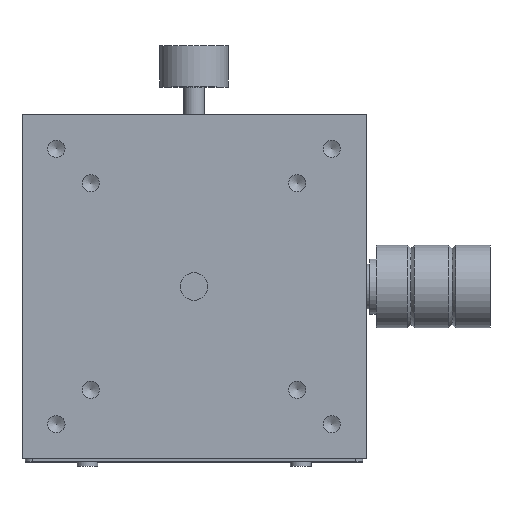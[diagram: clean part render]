
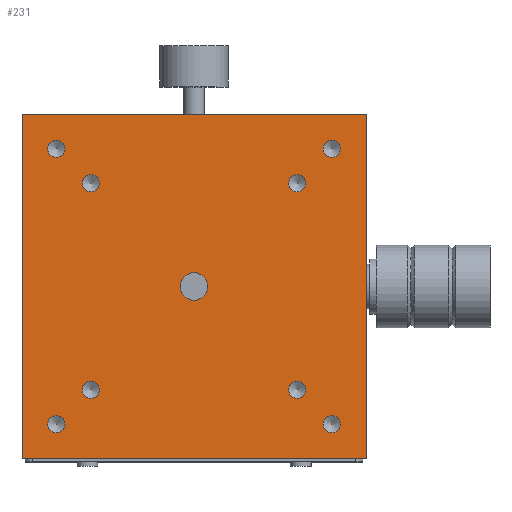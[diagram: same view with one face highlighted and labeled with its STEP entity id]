
A CAD part, top view. The second image highlights one B-rep face of the part: STEP entity #231.
In plain terms, the highlighted planar face has unit normal (0, 0, 1).
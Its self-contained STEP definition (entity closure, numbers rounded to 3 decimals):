
#231 = ADVANCED_FACE( '', ( #447, #448, #449, #450, #451, #452, #453, #454, #455, #456 ), #457, .T. );
#447 = FACE_BOUND( '', #771, .T. );
#448 = FACE_BOUND( '', #772, .T. );
#449 = FACE_BOUND( '', #773, .T. );
#450 = FACE_BOUND( '', #774, .T. );
#451 = FACE_BOUND( '', #775, .T. );
#452 = FACE_BOUND( '', #776, .T. );
#453 = FACE_BOUND( '', #777, .T. );
#454 = FACE_BOUND( '', #778, .T. );
#455 = FACE_OUTER_BOUND( '', #779, .T. );
#456 = FACE_BOUND( '', #780, .T. );
#457 = PLANE( '', #781 );
#771 = EDGE_LOOP( '', ( #1391 ) );
#772 = EDGE_LOOP( '', ( #1392 ) );
#773 = EDGE_LOOP( '', ( #1393 ) );
#774 = EDGE_LOOP( '', ( #1394 ) );
#775 = EDGE_LOOP( '', ( #1395 ) );
#776 = EDGE_LOOP( '', ( #1396 ) );
#777 = EDGE_LOOP( '', ( #1397 ) );
#778 = EDGE_LOOP( '', ( #1398 ) );
#779 = EDGE_LOOP( '', ( #1399, #1400, #1401, #1402 ) );
#780 = EDGE_LOOP( '', ( #1403 ) );
#781 = AXIS2_PLACEMENT_3D( '', #1404, #1405, #1406 );
#1391 = ORIENTED_EDGE( '', *, *, #1858, .T. );
#1392 = ORIENTED_EDGE( '', *, *, #1896, .T. );
#1393 = ORIENTED_EDGE( '', *, *, #1897, .T. );
#1394 = ORIENTED_EDGE( '', *, *, #1898, .T. );
#1395 = ORIENTED_EDGE( '', *, *, #1899, .T. );
#1396 = ORIENTED_EDGE( '', *, *, #1900, .T. );
#1397 = ORIENTED_EDGE( '', *, *, #1901, .T. );
#1398 = ORIENTED_EDGE( '', *, *, #1902, .T. );
#1399 = ORIENTED_EDGE( '', *, *, #1867, .F. );
#1400 = ORIENTED_EDGE( '', *, *, #1887, .F. );
#1401 = ORIENTED_EDGE( '', *, *, #1894, .F. );
#1402 = ORIENTED_EDGE( '', *, *, #1903, .F. );
#1403 = ORIENTED_EDGE( '', *, *, #1904, .T. );
#1404 = CARTESIAN_POINT( '', ( 0., 0., 18. ) );
#1405 = DIRECTION( '', ( 0., 0., 1. ) );
#1406 = DIRECTION( '', ( 1., 0., 0. ) );
#1858 = EDGE_CURVE( '', #2168, #2168, #2169, .T. );
#1867 = EDGE_CURVE( '', #2185, #2187, #2188, .T. );
#1887 = EDGE_CURVE( '', #2222, #2185, #2224, .T. );
#1894 = EDGE_CURVE( '', #2234, #2222, #2236, .T. );
#1896 = EDGE_CURVE( '', #2239, #2239, #2240, .T. );
#1897 = EDGE_CURVE( '', #2241, #2241, #2242, .T. );
#1898 = EDGE_CURVE( '', #2243, #2243, #2244, .T. );
#1899 = EDGE_CURVE( '', #2245, #2245, #2246, .T. );
#1900 = EDGE_CURVE( '', #2247, #2247, #2248, .T. );
#1901 = EDGE_CURVE( '', #2249, #2249, #2250, .T. );
#1902 = EDGE_CURVE( '', #2251, #2251, #2252, .T. );
#1903 = EDGE_CURVE( '', #2187, #2234, #2253, .T. );
#1904 = EDGE_CURVE( '', #2254, #2254, #2255, .F. );
#2168 = VERTEX_POINT( '', #2880 );
#2169 = CIRCLE( '', #2881, 1.25 );
#2185 = VERTEX_POINT( '', #2900 );
#2187 = VERTEX_POINT( '', #2903 );
#2188 = LINE( '', #2904, #2905 );
#2222 = VERTEX_POINT( '', #2959 );
#2224 = LINE( '', #2962, #2963 );
#2234 = VERTEX_POINT( '', #2979 );
#2236 = LINE( '', #2982, #2983 );
#2239 = VERTEX_POINT( '', #2986 );
#2240 = CIRCLE( '', #2987, 1.25 );
#2241 = VERTEX_POINT( '', #2988 );
#2242 = CIRCLE( '', #2989, 1.25 );
#2243 = VERTEX_POINT( '', #2990 );
#2244 = CIRCLE( '', #2991, 1.25 );
#2245 = VERTEX_POINT( '', #2992 );
#2246 = CIRCLE( '', #2993, 1.25 );
#2247 = VERTEX_POINT( '', #2994 );
#2248 = CIRCLE( '', #2995, 1.25 );
#2249 = VERTEX_POINT( '', #2996 );
#2250 = CIRCLE( '', #2997, 1.25 );
#2251 = VERTEX_POINT( '', #2998 );
#2252 = CIRCLE( '', #2999, 1.25 );
#2253 = LINE( '', #3000, #3001 );
#2254 = VERTEX_POINT( '', #3002 );
#2255 = CIRCLE( '', #3003, 2. );
#2880 = CARTESIAN_POINT( '', ( -15., 13.75, 18. ) );
#2881 = AXIS2_PLACEMENT_3D( '', #3311, #3312, #3313 );
#2900 = CARTESIAN_POINT( '', ( 25., -25., 18. ) );
#2903 = CARTESIAN_POINT( '', ( -25., -25., 18. ) );
#2904 = CARTESIAN_POINT( '', ( 0., -25., 18. ) );
#2905 = VECTOR( '', #3330, 1000. );
#2959 = CARTESIAN_POINT( '', ( 25., 25., 18. ) );
#2962 = CARTESIAN_POINT( '', ( 25., 0., 18. ) );
#2963 = VECTOR( '', #3358, 1000. );
#2979 = CARTESIAN_POINT( '', ( -25., 25., 18. ) );
#2982 = CARTESIAN_POINT( '', ( 0., 25., 18. ) );
#2983 = VECTOR( '', #3366, 1000. );
#2986 = CARTESIAN_POINT( '', ( 15., 13.75, 18. ) );
#2987 = AXIS2_PLACEMENT_3D( '', #3370, #3371, #3372 );
#2988 = CARTESIAN_POINT( '', ( 15., -16.25, 18. ) );
#2989 = AXIS2_PLACEMENT_3D( '', #3373, #3374, #3375 );
#2990 = CARTESIAN_POINT( '', ( -15., -16.25, 18. ) );
#2991 = AXIS2_PLACEMENT_3D( '', #3376, #3377, #3378 );
#2992 = CARTESIAN_POINT( '', ( 21.25, -20., 18. ) );
#2993 = AXIS2_PLACEMENT_3D( '', #3379, #3380, #3381 );
#2994 = CARTESIAN_POINT( '', ( 21.25, 20., 18. ) );
#2995 = AXIS2_PLACEMENT_3D( '', #3382, #3383, #3384 );
#2996 = CARTESIAN_POINT( '', ( -18.75, 20., 18. ) );
#2997 = AXIS2_PLACEMENT_3D( '', #3385, #3386, #3387 );
#2998 = CARTESIAN_POINT( '', ( -18.75, -20., 18. ) );
#2999 = AXIS2_PLACEMENT_3D( '', #3388, #3389, #3390 );
#3000 = CARTESIAN_POINT( '', ( -25., 0., 18. ) );
#3001 = VECTOR( '', #3391, 1000. );
#3002 = CARTESIAN_POINT( '', ( 2., 0., 18. ) );
#3003 = AXIS2_PLACEMENT_3D( '', #3392, #3393, #3394 );
#3311 = CARTESIAN_POINT( '', ( -15., 15., 18. ) );
#3312 = DIRECTION( '', ( 0., 0., -1. ) );
#3313 = DIRECTION( '', ( 0., -1., 0. ) );
#3330 = DIRECTION( '', ( -1., 0., 0. ) );
#3358 = DIRECTION( '', ( 0., -1., 0. ) );
#3366 = DIRECTION( '', ( 1., 0., 0. ) );
#3370 = CARTESIAN_POINT( '', ( 15., 15., 18. ) );
#3371 = DIRECTION( '', ( 0., 0., -1. ) );
#3372 = DIRECTION( '', ( 0., -1., 0. ) );
#3373 = CARTESIAN_POINT( '', ( 15., -15., 18. ) );
#3374 = DIRECTION( '', ( 0., 0., -1. ) );
#3375 = DIRECTION( '', ( 0., -1., 0. ) );
#3376 = CARTESIAN_POINT( '', ( -15., -15., 18. ) );
#3377 = DIRECTION( '', ( 0., 0., -1. ) );
#3378 = DIRECTION( '', ( 0., -1., 0. ) );
#3379 = CARTESIAN_POINT( '', ( 20., -20., 18. ) );
#3380 = DIRECTION( '', ( 0., 0., -1. ) );
#3381 = DIRECTION( '', ( 1., 0., 0. ) );
#3382 = CARTESIAN_POINT( '', ( 20., 20., 18. ) );
#3383 = DIRECTION( '', ( 0., 0., -1. ) );
#3384 = DIRECTION( '', ( 1., 0., 0. ) );
#3385 = CARTESIAN_POINT( '', ( -20., 20., 18. ) );
#3386 = DIRECTION( '', ( 0., 0., -1. ) );
#3387 = DIRECTION( '', ( 1., 0., 0. ) );
#3388 = CARTESIAN_POINT( '', ( -20., -20., 18. ) );
#3389 = DIRECTION( '', ( 0., 0., -1. ) );
#3390 = DIRECTION( '', ( 1., 0., 0. ) );
#3391 = DIRECTION( '', ( 0., 1., 0. ) );
#3392 = CARTESIAN_POINT( '', ( 0., 0., 18. ) );
#3393 = DIRECTION( '', ( 0., 0., 1. ) );
#3394 = DIRECTION( '', ( 1., 0., 0. ) );
